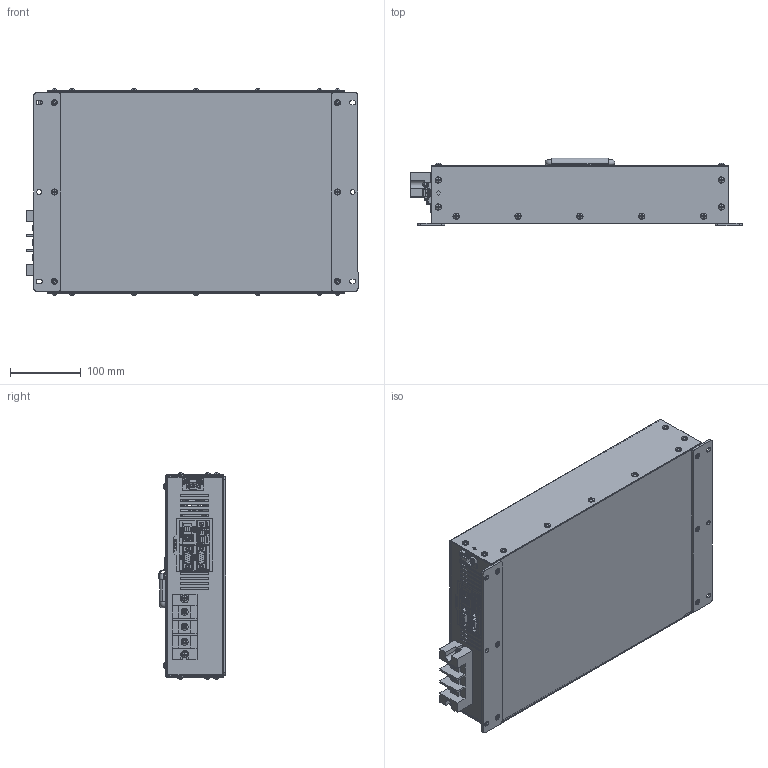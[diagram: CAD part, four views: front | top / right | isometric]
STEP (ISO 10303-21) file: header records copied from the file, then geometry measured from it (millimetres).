
FILE_DESCRIPTION(/* description */ (''),/* implementation_level */ '2;1');
FILE_NAME(/* name */ 'H:\04_배터리_전기종\고부하용 배터리 케이스_3D\[NEW] VW2COM_HANDLE2S 고객용\VW2COM_HANDLE2S_2025.07.21.stp',/* time_stamp */ '2025-07-21T14:25:40+09:00',/* author */ ('jjang'),/* organization */ (''),/* preprocessor_version */ 'ST-DEVELOPER v18.1',/* originating_system */ 'Autodesk Inventor 2021',/* authorisation */ '');
FILE_SCHEMA (('CONFIG_CONTROL_DESIGN'));
Products named in the file (1): VW2COM_Shrinkwrap_1
Bounding box: 468 x 95.2 x 290.84 mm (x, y, z)
Volume: 685545.1 mm3; surface area: 839512.2 mm2
Topology: 14 solids, 14 shells, 3626 faces, 11008 edges, 7777 vertices
Faces by surface type: plane 2005, cylinder 940, bspline 514, torus 109, cone 38, sphere 20
Full cylindrical faces by diameter (mm): 0.609 x1, 0.61 x27, 0.635 x9, 0.9 x4, 1.397 x9, 2.286 x9, 2.8 x8, 2.957 x4, 3 x2, 3.048 x4, 3.6 x4, 3.783 x2, 3.8 x58, 3.9 x2, 4 x11, 4.3 x8, 4.5 x16, 5 x9, 5.3 x10, 5.4 x2, 5.429 x2, 6 x3, 6.082 x1, 6.6 x2, 7.5 x6, 8.8 x25, 10 x5, 25.4 x2, 55.4 x2
Entity records: 150525 total; most frequent: CARTESIAN_POINT 50635, ORIENTED_EDGE 21988, DIRECTION 17464, EDGE_CURVE 10994, VERTEX_POINT 7777, LINE 5880, VECTOR 5880, AXIS2_PLACEMENT_3D 5792
